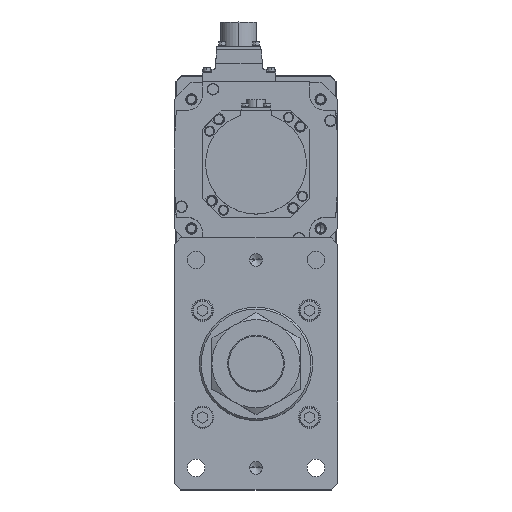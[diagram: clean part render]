
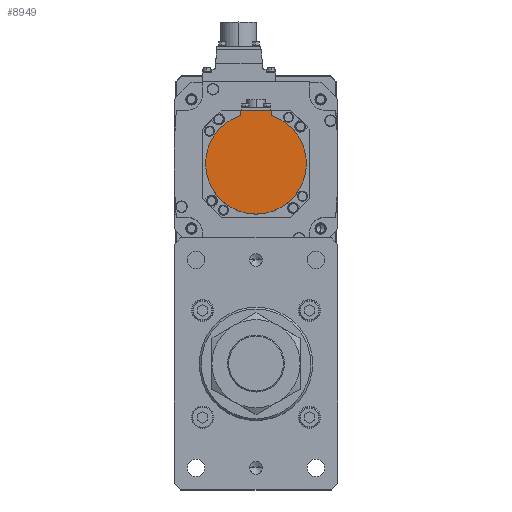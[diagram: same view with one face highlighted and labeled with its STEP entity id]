
A CAD part, top view. The second image highlights one B-rep face of the part: STEP entity #8949.
In plain terms, the highlighted planar face has unit normal (0, 0, 1) as drawn and (0, 0, -1) by its records, which use the part's own axes.
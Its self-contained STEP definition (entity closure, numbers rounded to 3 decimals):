
#60 = AXIS2_PLACEMENT_3D ( 'NONE', #19021, #29695, #29584 ) ;
#780 = VERTEX_POINT ( 'NONE', #13151 ) ;
#2426 = VECTOR ( 'NONE', #15666, 1000. ) ;
#2605 = CARTESIAN_POINT ( 'NONE',  ( 0., -42.5, -146.5 ) ) ;
#2973 = ORIENTED_EDGE ( 'NONE', *, *, #28425, .T. ) ;
#3309 = DIRECTION ( 'NONE',  ( 1., 0., 0. ) ) ;
#4345 = LINE ( 'NONE', #27339, #10607 ) ;
#4464 = ORIENTED_EDGE ( 'NONE', *, *, #20429, .F. ) ;
#4696 = AXIS2_PLACEMENT_3D ( 'NONE', #23845, #26550, #10544 ) ;
#5353 = LINE ( 'NONE', #2605, #17400 ) ;
#6833 = CIRCLE ( 'NONE', #4696, 40. ) ;
#7651 = CARTESIAN_POINT ( 'NONE',  ( 12., -1.249, -146.5 ) ) ;
#8906 = CARTESIAN_POINT ( 'NONE',  ( -12., -42.5, -146.5 ) ) ;
#8949 = ADVANCED_FACE ( 'NONE', ( #32376 ), #19250, .F. ) ;
#10544 = DIRECTION ( 'NONE',  ( 1., 0., 0. ) ) ;
#10607 = VECTOR ( 'NONE', #32617, 1000. ) ;
#11482 = EDGE_CURVE ( 'NONE', #15889, #25002, #12376, .T. ) ;
#12376 = CIRCLE ( 'NONE', #29314, 40. ) ;
#13151 = CARTESIAN_POINT ( 'NONE',  ( -12., -38.158, -146.5 ) ) ;
#13333 = ORIENTED_EDGE ( 'NONE', *, *, #31559, .F. ) ;
#14096 = ORIENTED_EDGE ( 'NONE', *, *, #11482, .F. ) ;
#14100 = EDGE_CURVE ( 'NONE', #22763, #780, #4345, .T. ) ;
#14906 = EDGE_LOOP ( 'NONE', ( #31089, #4464, #14096, #23049, #13333, #2973 ) ) ;
#15466 = EDGE_CURVE ( 'NONE', #24962, #15889, #30165, .T. ) ;
#15666 = DIRECTION ( 'NONE',  ( 0., 1., 0. ) ) ;
#15889 = VERTEX_POINT ( 'NONE', #21565 ) ;
#16172 = CARTESIAN_POINT ( 'NONE',  ( 12., -38.158, -146.5 ) ) ;
#17017 = DIRECTION ( 'NONE',  ( 0., 0., 1. ) ) ;
#17400 = VECTOR ( 'NONE', #23851, 1000. ) ;
#19021 = CARTESIAN_POINT ( 'NONE',  ( 0., 0., -146.5 ) ) ;
#19250 = PLANE ( 'NONE',  #34155 ) ;
#19271 = CARTESIAN_POINT ( 'NONE',  ( 0., 0., -146.5 ) ) ;
#20429 = EDGE_CURVE ( 'NONE', #25002, #780, #6833, .T. ) ;
#21327 = VERTEX_POINT ( 'NONE', #31567 ) ;
#21565 = CARTESIAN_POINT ( 'NONE',  ( 40., 0., -146.5 ) ) ;
#22292 = DIRECTION ( 'NONE',  ( 1., 0., 0. ) ) ;
#22763 = VERTEX_POINT ( 'NONE', #8906 ) ;
#23049 = ORIENTED_EDGE ( 'NONE', *, *, #15466, .F. ) ;
#23845 = CARTESIAN_POINT ( 'NONE',  ( 0., 0., -146.5 ) ) ;
#23851 = DIRECTION ( 'NONE',  ( -1., 0., 0. ) ) ;
#24391 = CARTESIAN_POINT ( 'NONE',  ( -40., 0., -146.5 ) ) ;
#24534 = DIRECTION ( 'NONE',  ( 0., 0., 1. ) ) ;
#24962 = VERTEX_POINT ( 'NONE', #16172 ) ;
#25002 = VERTEX_POINT ( 'NONE', #24391 ) ;
#26550 = DIRECTION ( 'NONE',  ( 0., 0., 1. ) ) ;
#27339 = CARTESIAN_POINT ( 'NONE',  ( -12., -40.329, -146.5 ) ) ;
#28425 = EDGE_CURVE ( 'NONE', #21327, #22763, #5353, .T. ) ;
#29314 = AXIS2_PLACEMENT_3D ( 'NONE', #19271, #17017, #3309 ) ;
#29584 = DIRECTION ( 'NONE',  ( 1., 0., 0. ) ) ;
#29695 = DIRECTION ( 'NONE',  ( 0., 0., 1. ) ) ;
#30165 = CIRCLE ( 'NONE', #60, 40. ) ;
#31089 = ORIENTED_EDGE ( 'NONE', *, *, #14100, .T. ) ;
#31559 = EDGE_CURVE ( 'NONE', #21327, #24962, #31754, .T. ) ;
#31567 = CARTESIAN_POINT ( 'NONE',  ( 12., -42.5, -146.5 ) ) ;
#31754 = LINE ( 'NONE', #7651, #2426 ) ;
#32376 = FACE_OUTER_BOUND ( 'NONE', #14906, .T. ) ;
#32617 = DIRECTION ( 'NONE',  ( 0., 1., 0. ) ) ;
#32724 = CARTESIAN_POINT ( 'NONE',  ( 0., -1.249, -146.5 ) ) ;
#34155 = AXIS2_PLACEMENT_3D ( 'NONE', #32724, #24534, #22292 ) ;
